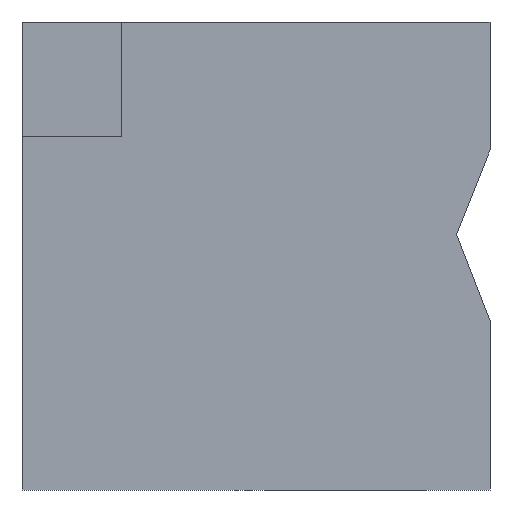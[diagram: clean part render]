
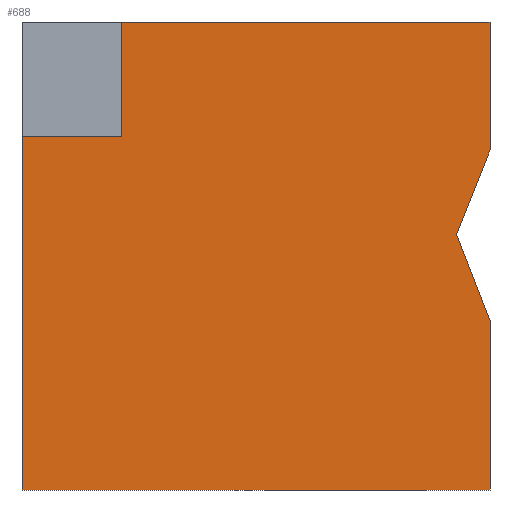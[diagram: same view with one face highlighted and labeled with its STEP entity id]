
A CAD part, front view. The second image highlights one B-rep face of the part: STEP entity #688.
In plain terms, the highlighted planar face has unit normal (0, -1, 0).
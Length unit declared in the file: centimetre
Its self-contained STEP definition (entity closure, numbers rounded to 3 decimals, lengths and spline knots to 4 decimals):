
#15 = EDGE_CURVE ( 'NONE', #727, #155, #148, .T. ) ;
#28 = VECTOR ( 'NONE', #415, 100. ) ;
#57 = LINE ( 'NONE', #754, #444 ) ;
#60 = EDGE_LOOP ( 'NONE', ( #323, #982, #921, #120, #677, #316, #1096, #229, #407 ) ) ;
#61 = CARTESIAN_POINT ( 'NONE',  ( 928.4642, 0., 546.5963 ) ) ;
#66 = LINE ( 'NONE', #678, #28 ) ;
#83 = DIRECTION ( 'NONE',  ( -0.369, 0., -0.929 ) ) ;
#85 = CARTESIAN_POINT ( 'NONE',  ( 1000., 0., 361.887 ) ) ;
#120 = ORIENTED_EDGE ( 'NONE', *, *, #997, .T. ) ;
#145 = AXIS2_PLACEMENT_3D ( 'NONE', #1008, #838, #328 ) ;
#148 = LINE ( 'NONE', #501, #972 ) ;
#155 = VERTEX_POINT ( 'NONE', #884 ) ;
#166 = LINE ( 'NONE', #862, #823 ) ;
#167 = VECTOR ( 'NONE', #947, 100. ) ;
#225 = VERTEX_POINT ( 'NONE', #461 ) ;
#229 = ORIENTED_EDGE ( 'NONE', *, *, #1005, .F. ) ;
#253 = CARTESIAN_POINT ( 'NONE',  ( 213.4482, 0., 1000. ) ) ;
#280 = CARTESIAN_POINT ( 'NONE',  ( 0., 0., 0. ) ) ;
#289 = DIRECTION ( 'NONE',  ( 0., 0., 1. ) ) ;
#298 = VERTEX_POINT ( 'NONE', #280 ) ;
#316 = ORIENTED_EDGE ( 'NONE', *, *, #1107, .F. ) ;
#323 = ORIENTED_EDGE ( 'NONE', *, *, #664, .F. ) ;
#325 = EDGE_CURVE ( 'NONE', #155, #853, #825, .T. ) ;
#328 = DIRECTION ( 'NONE',  ( 0., 0., 1. ) ) ;
#394 = VERTEX_POINT ( 'NONE', #851 ) ;
#407 = ORIENTED_EDGE ( 'NONE', *, *, #861, .F. ) ;
#415 = DIRECTION ( 'NONE',  ( 0., 0., -1. ) ) ;
#417 = FACE_OUTER_BOUND ( 'NONE', #60, .T. ) ;
#432 = DIRECTION ( 'NONE',  ( 1., 0., 0. ) ) ;
#444 = VECTOR ( 'NONE', #1004, 100. ) ;
#446 = LINE ( 'NONE', #85, #167 ) ;
#447 = CARTESIAN_POINT ( 'NONE',  ( 1000., 0., 1000. ) ) ;
#461 = CARTESIAN_POINT ( 'NONE',  ( 1000., 0., 1000. ) ) ;
#473 = VECTOR ( 'NONE', #289, 100. ) ;
#496 = PLANE ( 'NONE',  #145 ) ;
#501 = CARTESIAN_POINT ( 'NONE',  ( 0., 0., 754.4423 ) ) ;
#545 = DIRECTION ( 'NONE',  ( 0., 0., -1. ) ) ;
#577 = CARTESIAN_POINT ( 'NONE',  ( 1000., 0., 1000. ) ) ;
#639 = CARTESIAN_POINT ( 'NONE',  ( 213.4482, 0., 754.4423 ) ) ;
#664 = EDGE_CURVE ( 'NONE', #853, #225, #57, .T. ) ;
#674 = DIRECTION ( 'NONE',  ( 1., 0., 0. ) ) ;
#677 = ORIENTED_EDGE ( 'NONE', *, *, #1065, .T. ) ;
#678 = CARTESIAN_POINT ( 'NONE',  ( 0., 0., 1000. ) ) ;
#683 = VERTEX_POINT ( 'NONE', #850 ) ;
#688 = ADVANCED_FACE ( 'NONE', ( #417 ), #496, .F. ) ;
#727 = VERTEX_POINT ( 'NONE', #778 ) ;
#735 = EDGE_CURVE ( 'NONE', #917, #683, #446, .T. ) ;
#754 = CARTESIAN_POINT ( 'NONE',  ( 0., 0., 1000. ) ) ;
#760 = LINE ( 'NONE', #61, #956 ) ;
#778 = CARTESIAN_POINT ( 'NONE',  ( 0., 0., 754.4423 ) ) ;
#796 = CARTESIAN_POINT ( 'NONE',  ( 928.4642, 0., 546.5963 ) ) ;
#801 = LINE ( 'NONE', #577, #974 ) ;
#823 = VECTOR ( 'NONE', #432, 100. ) ;
#825 = LINE ( 'NONE', #639, #473 ) ;
#838 = DIRECTION ( 'NONE',  ( 0., 1., 0. ) ) ;
#850 = CARTESIAN_POINT ( 'NONE',  ( 1000., 0., 361.887 ) ) ;
#851 = CARTESIAN_POINT ( 'NONE',  ( 1000., 0., 726.5114 ) ) ;
#852 = VERTEX_POINT ( 'NONE', #1027 ) ;
#853 = VERTEX_POINT ( 'NONE', #253 ) ;
#861 = EDGE_CURVE ( 'NONE', #225, #394, #801, .T. ) ;
#862 = CARTESIAN_POINT ( 'NONE',  ( 0., 0., 0. ) ) ;
#884 = CARTESIAN_POINT ( 'NONE',  ( 213.4482, 0., 754.4423 ) ) ;
#917 = VERTEX_POINT ( 'NONE', #796 ) ;
#921 = ORIENTED_EDGE ( 'NONE', *, *, #15, .F. ) ;
#947 = DIRECTION ( 'NONE',  ( 0.361, 0., -0.933 ) ) ;
#955 = DIRECTION ( 'NONE',  ( 0., 0., -1. ) ) ;
#956 = VECTOR ( 'NONE', #83, 100. ) ;
#972 = VECTOR ( 'NONE', #674, 100. ) ;
#974 = VECTOR ( 'NONE', #545, 100. ) ;
#982 = ORIENTED_EDGE ( 'NONE', *, *, #325, .F. ) ;
#997 = EDGE_CURVE ( 'NONE', #727, #298, #66, .T. ) ;
#1004 = DIRECTION ( 'NONE',  ( 1., 0., 0. ) ) ;
#1005 = EDGE_CURVE ( 'NONE', #394, #917, #760, .T. ) ;
#1008 = CARTESIAN_POINT ( 'NONE',  ( 0., 0., 1000. ) ) ;
#1027 = CARTESIAN_POINT ( 'NONE',  ( 1000., 0., 0. ) ) ;
#1030 = LINE ( 'NONE', #447, #1121 ) ;
#1065 = EDGE_CURVE ( 'NONE', #298, #852, #166, .T. ) ;
#1096 = ORIENTED_EDGE ( 'NONE', *, *, #735, .F. ) ;
#1107 = EDGE_CURVE ( 'NONE', #683, #852, #1030, .T. ) ;
#1121 = VECTOR ( 'NONE', #955, 100. ) ;
